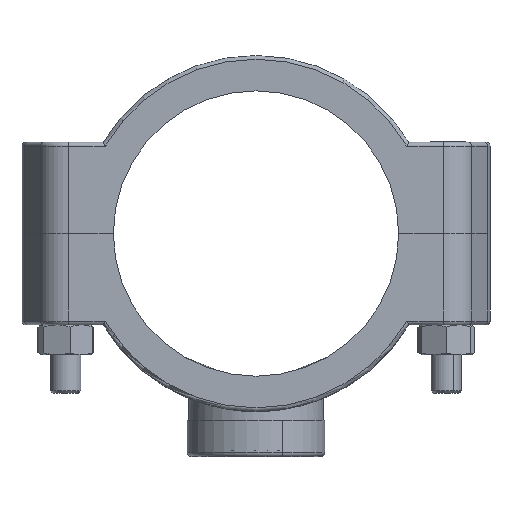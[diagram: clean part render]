
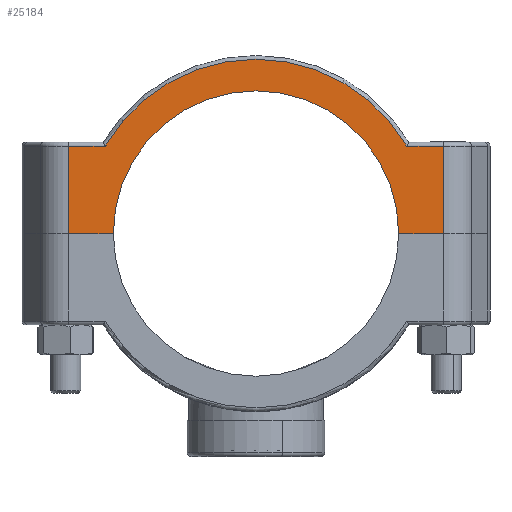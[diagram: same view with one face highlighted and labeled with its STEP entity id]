
A CAD part, front view. The second image highlights one B-rep face of the part: STEP entity #25184.
In plain terms, the highlighted planar face has unit normal (0, -1, 0).
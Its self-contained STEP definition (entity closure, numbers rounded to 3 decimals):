
#2056 = LINE ( 'NONE', #12099, #28268 ) ;
#3188 = ORIENTED_EDGE ( 'NONE', *, *, #30077, .T. ) ;
#6075 = VECTOR ( 'NONE', #49514, 1000. ) ;
#6268 = VERTEX_POINT ( 'NONE', #22728 ) ;
#6445 = CARTESIAN_POINT ( 'NONE',  ( -49.32, -39.5, 23. ) ) ;
#6885 = ORIENTED_EDGE ( 'NONE', *, *, #54663, .T. ) ;
#7135 = LINE ( 'NONE', #17207, #41016 ) ;
#8702 = ORIENTED_EDGE ( 'NONE', *, *, #31059, .T. ) ;
#10719 = DIRECTION ( 'NONE',  ( 0., 0., -1. ) ) ;
#10730 = CARTESIAN_POINT ( 'NONE',  ( 46.8, -39.5, 0. ) ) ;
#11128 = CARTESIAN_POINT ( 'NONE',  ( 46.8, -39.5, 0. ) ) ;
#11449 = DIRECTION ( 'NONE',  ( 1., 0., 0. ) ) ;
#12099 = CARTESIAN_POINT ( 'NONE',  ( 40.178, -39.5, 23. ) ) ;
#15073 = VERTEX_POINT ( 'NONE', #33151 ) ;
#16032 = VERTEX_POINT ( 'NONE', #61891 ) ;
#16580 = LINE ( 'NONE', #10730, #41727 ) ;
#17207 = CARTESIAN_POINT ( 'NONE',  ( -49.32, -39.5, 0. ) ) ;
#17296 = EDGE_CURVE ( 'NONE', #60343, #54571, #16580, .T. ) ;
#18696 = LINE ( 'NONE', #54169, #20096 ) ;
#19438 = AXIS2_PLACEMENT_3D ( 'NONE', #61707, #41422, #46918 ) ;
#20009 = CARTESIAN_POINT ( 'NONE',  ( 37.5, -39.5, 0. ) ) ;
#20096 = VECTOR ( 'NONE', #24159, 1000. ) ;
#21832 = DIRECTION ( 'NONE',  ( -1., 0., 0. ) ) ;
#22060 = CARTESIAN_POINT ( 'NONE',  ( -39.606, -39.5, 23. ) ) ;
#22601 = CARTESIAN_POINT ( 'NONE',  ( 0., -39.5, 0. ) ) ;
#22728 = CARTESIAN_POINT ( 'NONE',  ( -37.5, -39.5, 0. ) ) ;
#22795 = VECTOR ( 'NONE', #11449, 1000. ) ;
#24159 = DIRECTION ( 'NONE',  ( -1., 0., 0. ) ) ;
#25184 = ADVANCED_FACE ( 'NONE', ( #45266 ), #25237, .T. ) ;
#25237 = PLANE ( 'NONE',  #51814 ) ;
#27024 = EDGE_CURVE ( 'NONE', #15073, #16032, #2056, .T. ) ;
#28268 = VECTOR ( 'NONE', #21832, 1000. ) ;
#30077 = EDGE_CURVE ( 'NONE', #16032, #40450, #52396, .T. ) ;
#30728 = CARTESIAN_POINT ( 'NONE',  ( 0., -39.5, 0. ) ) ;
#31059 = EDGE_CURVE ( 'NONE', #54571, #15073, #54983, .T. ) ;
#33003 = VERTEX_POINT ( 'NONE', #45948 ) ;
#33053 = VERTEX_POINT ( 'NONE', #6445 ) ;
#33151 = CARTESIAN_POINT ( 'NONE',  ( 49.32, -39.5, 23. ) ) ;
#36275 = ORIENTED_EDGE ( 'NONE', *, *, #27024, .T. ) ;
#38743 = ORIENTED_EDGE ( 'NONE', *, *, #38862, .T. ) ;
#38862 = EDGE_CURVE ( 'NONE', #33003, #6268, #59917, .T. ) ;
#39854 = DIRECTION ( 'NONE',  ( 1., 0., 0. ) ) ;
#40377 = ORIENTED_EDGE ( 'NONE', *, *, #59496, .T. ) ;
#40450 = VERTEX_POINT ( 'NONE', #22060 ) ;
#40889 = EDGE_CURVE ( 'NONE', #6268, #60343, #51666, .T. ) ;
#41016 = VECTOR ( 'NONE', #10719, 1000. ) ;
#41422 = DIRECTION ( 'NONE',  ( 0., -1., 0. ) ) ;
#41727 = VECTOR ( 'NONE', #39854, 1000. ) ;
#42732 = ORIENTED_EDGE ( 'NONE', *, *, #40889, .T. ) ;
#43180 = EDGE_LOOP ( 'NONE', ( #6885, #40377, #38743, #42732, #52610, #8702, #36275, #3188 ) ) ;
#45266 = FACE_OUTER_BOUND ( 'NONE', #43180, .T. ) ;
#45662 = CARTESIAN_POINT ( 'NONE',  ( 49.32, -39.5, 23. ) ) ;
#45948 = CARTESIAN_POINT ( 'NONE',  ( -49.32, -39.5, 0. ) ) ;
#46918 = DIRECTION ( 'NONE',  ( -1., 0., 0. ) ) ;
#47485 = DIRECTION ( 'NONE',  ( 0., 1., 0. ) ) ;
#49514 = DIRECTION ( 'NONE',  ( 0., 0., 1. ) ) ;
#49623 = AXIS2_PLACEMENT_3D ( 'NONE', #22601, #47485, #51965 ) ;
#51666 = CIRCLE ( 'NONE', #49623, 37.5 ) ;
#51814 = AXIS2_PLACEMENT_3D ( 'NONE', #30728, #55566, #59443 ) ;
#51965 = DIRECTION ( 'NONE',  ( -1., 0., 0. ) ) ;
#52396 = CIRCLE ( 'NONE', #19438, 45.8 ) ;
#52610 = ORIENTED_EDGE ( 'NONE', *, *, #17296, .T. ) ;
#54169 = CARTESIAN_POINT ( 'NONE',  ( -54.665, -39.5, 23. ) ) ;
#54571 = VERTEX_POINT ( 'NONE', #55859 ) ;
#54663 = EDGE_CURVE ( 'NONE', #40450, #33053, #18696, .T. ) ;
#54983 = LINE ( 'NONE', #45662, #6075 ) ;
#55566 = DIRECTION ( 'NONE',  ( 0., -1., 0. ) ) ;
#55859 = CARTESIAN_POINT ( 'NONE',  ( 49.32, -39.5, 0. ) ) ;
#59443 = DIRECTION ( 'NONE',  ( -1., 0., 0. ) ) ;
#59496 = EDGE_CURVE ( 'NONE', #33053, #33003, #7135, .T. ) ;
#59917 = LINE ( 'NONE', #11128, #22795 ) ;
#60343 = VERTEX_POINT ( 'NONE', #20009 ) ;
#61707 = CARTESIAN_POINT ( 'NONE',  ( 0., -39.5, 0. ) ) ;
#61891 = CARTESIAN_POINT ( 'NONE',  ( 39.606, -39.5, 23. ) ) ;
